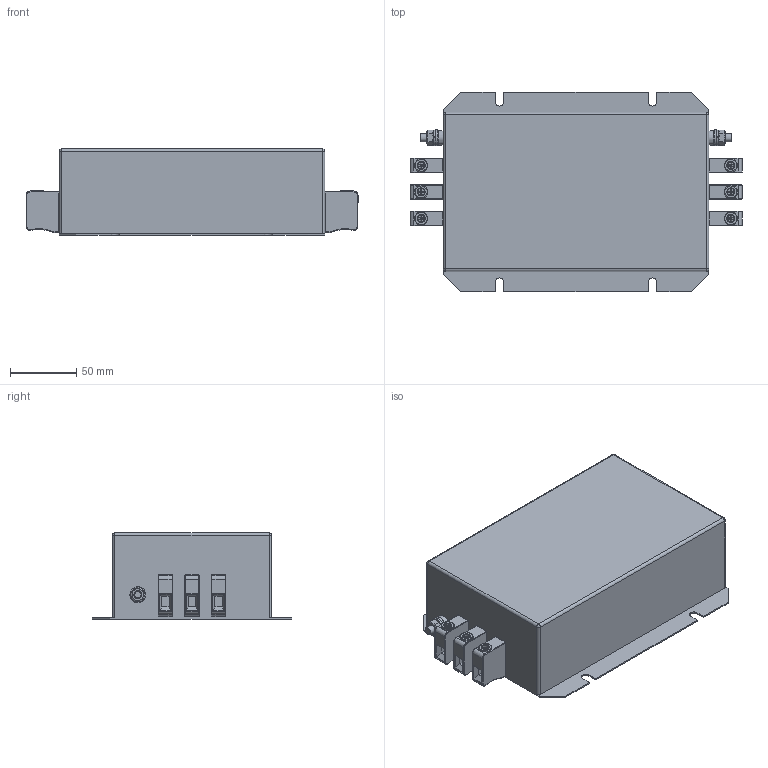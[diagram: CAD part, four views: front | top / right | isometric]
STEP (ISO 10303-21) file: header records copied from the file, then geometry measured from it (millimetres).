
FILE_DESCRIPTION((''),'2;1');
FILE_NAME('L:\INVENTOR_Projektedaten\HousingDesign\FN351-25-33.stp','2013-04-11T11:51:11',('Samuel.Meier'),(''),'Autodesk Inventor 2013','Autodesk Inventor 2013','');
FILE_SCHEMA(('AUTOMOTIVE_DESIGN { 1 0 10303 214 1 1 1 1 }'));
Length unit declared in the file: millimetre
Products named in the file (1): FN351-25-33
Bounding box: 250 x 150 x 65 mm (x, y, z)
Volume: 1612307.6 mm3; surface area: 115216.8 mm2
Topology: 1 solids, 1 shells, 538 faces, 1286 edges, 754 vertices
Faces by surface type: plane 260, cylinder 170, torus 72, sphere 28, cone 8
Full cylindrical faces by diameter (mm): 5.1 x6, 6 x4, 6.4 x2, 10 x6, 11.05 x2, 12 x2
Entity records: 15280 total; most frequent: CARTESIAN_POINT 2721, DIRECTION 2712, ORIENTED_EDGE 2420, EDGE_CURVE 1210, AXIS2_PLACEMENT_3D 999, VERTEX_POINT 744, VECTOR 714, LINE 714
